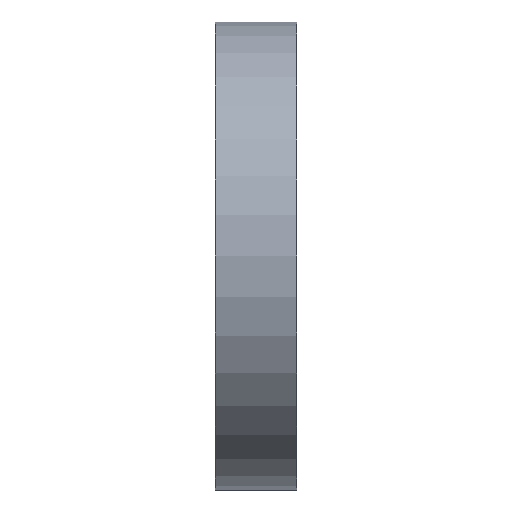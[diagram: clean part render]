
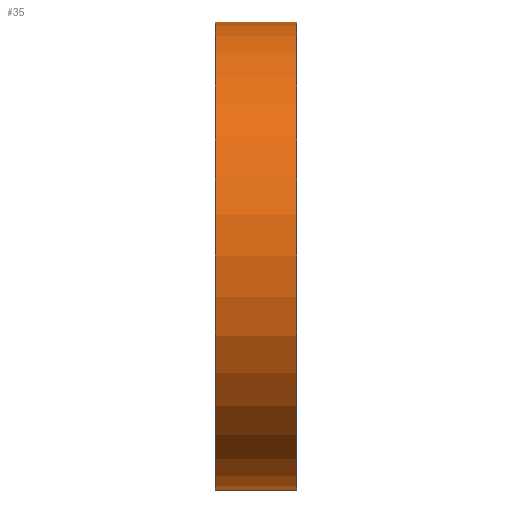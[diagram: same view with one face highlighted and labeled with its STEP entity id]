
A CAD part, front view. The second image highlights one B-rep face of the part: STEP entity #35.
In plain terms, the highlighted cylindrical face has radius 11.5 mm (diameter 23 mm), a full revolution.
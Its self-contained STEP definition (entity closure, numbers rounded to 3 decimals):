
#35 = ADVANCED_FACE('',(#36),#49,.T.);
#36 = FACE_BOUND('',#37,.T.);
#37 = EDGE_LOOP('',(#38,#72,#95,#122));
#38 = ORIENTED_EDGE('',*,*,#39,.F.);
#39 = EDGE_CURVE('',#40,#40,#42,.T.);
#40 = VERTEX_POINT('',#41);
#41 = CARTESIAN_POINT('',(11.5,0.,4.));
#42 = SURFACE_CURVE('',#43,(#48,#60),.PCURVE_S1.);
#43 = CIRCLE('',#44,11.5);
#44 = AXIS2_PLACEMENT_3D('',#45,#46,#47);
#45 = CARTESIAN_POINT('',(0.,0.,4.));
#46 = DIRECTION('',(0.,0.,1.));
#47 = DIRECTION('',(1.,0.,-0.));
#48 = PCURVE('',#49,#54);
#49 = CYLINDRICAL_SURFACE('',#50,11.5);
#50 = AXIS2_PLACEMENT_3D('',#51,#52,#53);
#51 = CARTESIAN_POINT('',(0.,0.,0.));
#52 = DIRECTION('',(0.,0.,1.));
#53 = DIRECTION('',(1.,0.,-0.));
#54 = DEFINITIONAL_REPRESENTATION('',(#55),#59);
#55 = LINE('',#56,#57);
#56 = CARTESIAN_POINT('',(0.,4.));
#57 = VECTOR('',#58,1.);
#58 = DIRECTION('',(1.,0.));
#59 = ( GEOMETRIC_REPRESENTATION_CONTEXT(2) 
PARAMETRIC_REPRESENTATION_CONTEXT() REPRESENTATION_CONTEXT('2D SPACE',''
  ) );
#60 = PCURVE('',#61,#66);
#61 = PLANE('',#62);
#62 = AXIS2_PLACEMENT_3D('',#63,#64,#65);
#63 = CARTESIAN_POINT('',(0.,0.,4.));
#64 = DIRECTION('',(0.,0.,1.));
#65 = DIRECTION('',(1.,0.,-0.));
#66 = DEFINITIONAL_REPRESENTATION('',(#67),#71);
#67 = CIRCLE('',#68,11.5);
#68 = AXIS2_PLACEMENT_2D('',#69,#70);
#69 = CARTESIAN_POINT('',(0.,0.));
#70 = DIRECTION('',(1.,0.));
#71 = ( GEOMETRIC_REPRESENTATION_CONTEXT(2) 
PARAMETRIC_REPRESENTATION_CONTEXT() REPRESENTATION_CONTEXT('2D SPACE',''
  ) );
#72 = ORIENTED_EDGE('',*,*,#73,.F.);
#73 = EDGE_CURVE('',#74,#40,#76,.T.);
#74 = VERTEX_POINT('',#75);
#75 = CARTESIAN_POINT('',(11.5,0.,0.));
#76 = SEAM_CURVE('',#77,(#81,#88),.PCURVE_S1.);
#77 = LINE('',#78,#79);
#78 = CARTESIAN_POINT('',(11.5,0.,0.));
#79 = VECTOR('',#80,1.);
#80 = DIRECTION('',(0.,0.,1.));
#81 = PCURVE('',#49,#82);
#82 = DEFINITIONAL_REPRESENTATION('',(#83),#87);
#83 = LINE('',#84,#85);
#84 = CARTESIAN_POINT('',(6.283,-0.));
#85 = VECTOR('',#86,1.);
#86 = DIRECTION('',(0.,1.));
#87 = ( GEOMETRIC_REPRESENTATION_CONTEXT(2) 
PARAMETRIC_REPRESENTATION_CONTEXT() REPRESENTATION_CONTEXT('2D SPACE',''
  ) );
#88 = PCURVE('',#49,#89);
#89 = DEFINITIONAL_REPRESENTATION('',(#90),#94);
#90 = LINE('',#91,#92);
#91 = CARTESIAN_POINT('',(0.,-0.));
#92 = VECTOR('',#93,1.);
#93 = DIRECTION('',(0.,1.));
#94 = ( GEOMETRIC_REPRESENTATION_CONTEXT(2) 
PARAMETRIC_REPRESENTATION_CONTEXT() REPRESENTATION_CONTEXT('2D SPACE',''
  ) );
#95 = ORIENTED_EDGE('',*,*,#96,.T.);
#96 = EDGE_CURVE('',#74,#74,#97,.T.);
#97 = SURFACE_CURVE('',#98,(#103,#110),.PCURVE_S1.);
#98 = CIRCLE('',#99,11.5);
#99 = AXIS2_PLACEMENT_3D('',#100,#101,#102);
#100 = CARTESIAN_POINT('',(0.,0.,0.));
#101 = DIRECTION('',(0.,0.,1.));
#102 = DIRECTION('',(1.,0.,-0.));
#103 = PCURVE('',#49,#104);
#104 = DEFINITIONAL_REPRESENTATION('',(#105),#109);
#105 = LINE('',#106,#107);
#106 = CARTESIAN_POINT('',(0.,0.));
#107 = VECTOR('',#108,1.);
#108 = DIRECTION('',(1.,0.));
#109 = ( GEOMETRIC_REPRESENTATION_CONTEXT(2) 
PARAMETRIC_REPRESENTATION_CONTEXT() REPRESENTATION_CONTEXT('2D SPACE',''
  ) );
#110 = PCURVE('',#111,#116);
#111 = PLANE('',#112);
#112 = AXIS2_PLACEMENT_3D('',#113,#114,#115);
#113 = CARTESIAN_POINT('',(0.,0.,0.));
#114 = DIRECTION('',(0.,0.,1.));
#115 = DIRECTION('',(1.,0.,-0.));
#116 = DEFINITIONAL_REPRESENTATION('',(#117),#121);
#117 = CIRCLE('',#118,11.5);
#118 = AXIS2_PLACEMENT_2D('',#119,#120);
#119 = CARTESIAN_POINT('',(0.,0.));
#120 = DIRECTION('',(1.,0.));
#121 = ( GEOMETRIC_REPRESENTATION_CONTEXT(2) 
PARAMETRIC_REPRESENTATION_CONTEXT() REPRESENTATION_CONTEXT('2D SPACE',''
  ) );
#122 = ORIENTED_EDGE('',*,*,#73,.T.);
